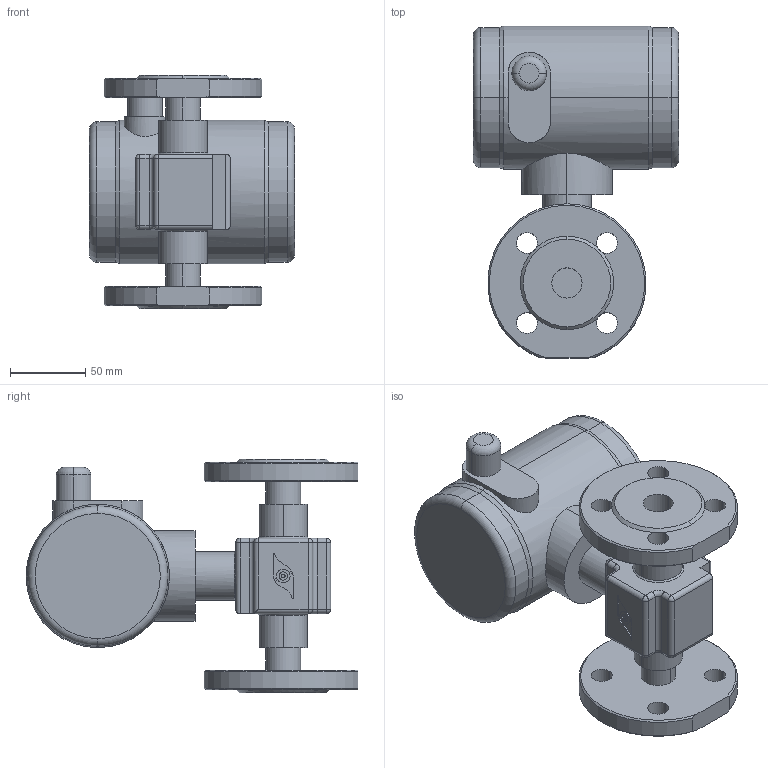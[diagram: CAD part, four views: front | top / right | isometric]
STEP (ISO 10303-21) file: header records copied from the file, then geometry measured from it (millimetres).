
FILE_DESCRIPTION (( 'STEP AP203' ), '1' );
FILE_NAME ('Ïèòåðôëîó ÐÑ20 ôëàíöåâûé äëÿ ñàéòà.STEP', '2015-11-03T08:56:06', ( '' ), ( '' ), 'SwSTEP 2.0', 'SolidWorks 2015', '' );
FILE_SCHEMA (( 'CONFIG_CONTROL_DESIGN' ));
Length unit declared in the file: millimetre
Products named in the file (2): Ïèòåðôëîó ÐÑ20 ôëàíöåâûé äëÿ ñàéòà
Bounding box: 136 x 220 x 155 mm (x, y, z)
Volume: 1437989 mm3; surface area: 135281 mm2
Topology: 1 solids, 1 shells, 205 faces, 500 edges, 301 vertices
Faces by surface type: cylinder 90, plane 63, cone 21, torus 11, sphere 10, bspline 10
Entity records: 6701 total; most frequent: CARTESIAN_POINT 1690, DIRECTION 1076, ORIENTED_EDGE 980, EDGE_CURVE 490, AXIS2_PLACEMENT_3D 433, VERTEX_POINT 301, CIRCLE 236, EDGE_LOOP 235
